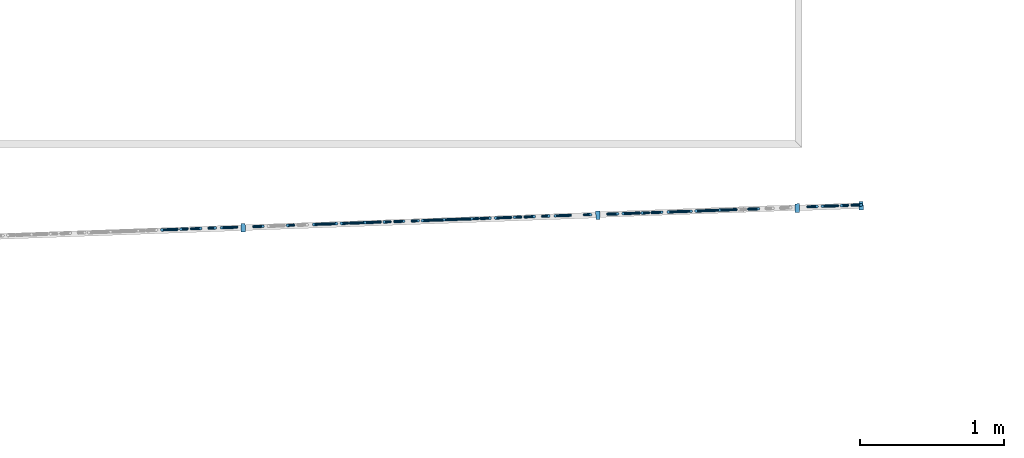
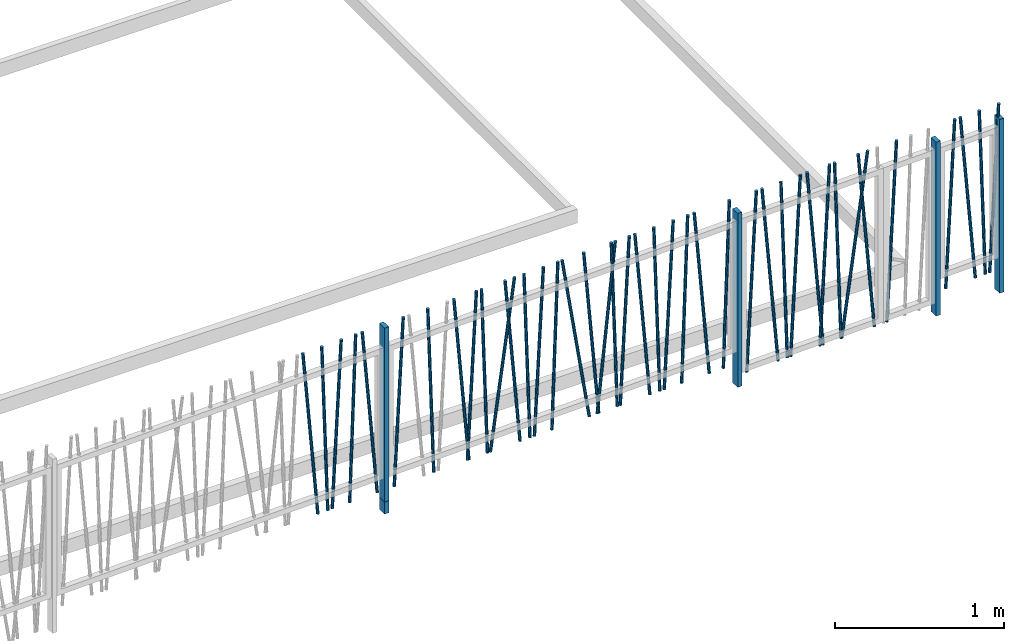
# One storey, part 12 of 171: 45 columns.
"""IFC2X3 building model written with IfcOpenShell, lengths in millimetres."""

from ifc_helpers import new_model, entity, si_unit, converted_unit, derived_unit, money_unit, direction, frame, origin_with_axes, origin_2d_with_axis, place, context, subcontext, project, spatial, rectangle, circle, extrude, clip, halfspace, material, type_object, element, save


model = new_model("IFC2X3")

# Units and contexts
model_context = context("Model", 3, precision=0.01, world=origin_with_axes(), true_north=direction((0.0, 1.0)))
body_context = subcontext(model_context, "Body", "Model", "MODEL_VIEW")
ifc_project = project(units=[si_unit("LENGTHUNIT", "METRE", prefix="MILLI"), si_unit("AREAUNIT", "SQUARE_METRE"), si_unit("VOLUMEUNIT", "CUBIC_METRE"), converted_unit("PLANEANGLEUNIT", "DEGREE", entity("IfcPlaneAngleMeasure", 0.0174532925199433), si_unit("PLANEANGLEUNIT", "RADIAN"), dimensions=[0, 0, 0, 0, 0, 0, 0]), money_unit("USD"), converted_unit("TIMEUNIT", "Year", entity("IfcTimeMeasure", 31557600.0), si_unit("TIMEUNIT", "SECOND"), dimensions=[0, 0, 1, 0, 0, 0, 0]), si_unit("MASSUNIT", "GRAM", prefix="KILO"), si_unit("THERMODYNAMICTEMPERATUREUNIT", "DEGREE_CELSIUS"), si_unit("LUMINOUSINTENSITYUNIT", "LUMEN"), si_unit("ENERGYUNIT", "JOULE", prefix="MEGA"), derived_unit("THERMALCONDUCTANCEUNIT", [(si_unit("POWERUNIT", "WATT"), 1), (si_unit("LENGTHUNIT", "METRE"), -1), (si_unit("THERMODYNAMICTEMPERATUREUNIT", "KELVIN"), -1)]), derived_unit("SPECIFICHEATCAPACITYUNIT", [(si_unit("ENERGYUNIT", "JOULE"), 1), (si_unit("MASSUNIT", "GRAM", prefix="KILO"), -1), (si_unit("THERMODYNAMICTEMPERATUREUNIT", "KELVIN"), -1)]), derived_unit("MASSDENSITYUNIT", [(si_unit("MASSUNIT", "GRAM", prefix="KILO"), 1), (si_unit("VOLUMEUNIT", "CUBIC_METRE"), -1)])], contexts=[model_context])

# Site, building, storey
site_placement = place(None, origin_with_axes())
site = spatial("IfcSite", under=ifc_project, at=site_placement, Name="Site", CompositionType="ELEMENT")
building_placement = place(site_placement, origin_with_axes())
building = spatial("IfcBuilding", under=site, at=building_placement, Name="Bâtiment", CompositionType="ELEMENT")
storey_placement = place(building_placement, frame((0.0, 0.0, 3000.0), z_axis=(0.0, 0.0, 1.0), x_axis=(1.0, 0.0, 0.0)))
storey = spatial("IfcBuildingStorey", under=building, at=storey_placement, Name="rdc", CompositionType="ELEMENT", Elevation=3000.0)

# Columns
ifc_material = material(Name="Empty Fill 2959611567")
column_type_1 = type_object("IfcColumnType", Name="Empty Fill 2959611567 D20", PredefinedType="NOTDEFINED")
column_1_placement = place(storey_placement, frame((2251008.383621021, -666933.1708289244, -1950.0), z_axis=(0.0, 0.0, 1.0), x_axis=(-0.03567989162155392, 0.9993632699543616, 0.0)))
element("IfcColumn", 1, at=column_1_placement, inside=storey, type_object=column_type_1, material=ifc_material, Name="Pilier-019", context=body_context, shape_type="Clipping", body=[
    clip(clip(extrude(circle(Radius=10.0, at=origin_2d_with_axis()), frame((0.0, -0.152502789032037, -1.743114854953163), z_axis=(0.0, 0.08715574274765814, 0.9961946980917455), x_axis=(1.0, 0.0, 0.0)), (0.0, 0.0, 1.0), 1208.083351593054), halfspace(frame((0.0, 0.0, 0.0), z_axis=(0.0, 0.0, 1.0), x_axis=(0.0, -1.0, 0.0)), True)), halfspace(frame((0.0, 0.0, 1200.0), z_axis=(0.0, 0.0, -1.0), x_axis=(0.0, 1.0, 0.0)), True)),
])
column_2_placement = place(storey_placement, frame((2251850.463526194, -666903.1063662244, -1950.0), z_axis=(0.0, 0.0, 1.0), x_axis=(-0.03567989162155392, 0.9993632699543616, 0.0)))
element("IfcColumn", 2, at=column_2_placement, inside=storey, type_object=column_type_1, material=ifc_material, Name="Pilier-019", context=body_context, shape_type="Clipping", body=[
    clip(clip(extrude(circle(Radius=10.0, at=origin_2d_with_axis()), frame((0.0, -0.4955357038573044, -3.128689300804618), z_axis=(0.0, 0.1564344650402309, 0.9876883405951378), x_axis=(1.0, 0.0, 0.0)), (0.0, 0.0, 1.0), 1221.293528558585), halfspace(frame((0.0, 0.0, 0.0), z_axis=(0.0, 0.0, 1.0), x_axis=(0.0, -1.0, 0.0)), True)), halfspace(frame((0.0, 0.0, 1200.0), z_axis=(0.0, 0.0, -1.0), x_axis=(0.0, 1.0, 0.0)), True)),
])
column_3_placement = place(storey_placement, frame((2251467.036645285, -666916.795712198, -1950.0), z_axis=(0.0, 0.0, 1.0), x_axis=(0.03567989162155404, -0.9993632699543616, 0.0)))
element("IfcColumn", 3, at=column_3_placement, inside=storey, type_object=column_type_1, material=ifc_material, Name="Pilier-019", context=body_context, shape_type="Clipping", body=[
    clip(clip(extrude(circle(Radius=10.0, at=origin_2d_with_axis()), frame((0.0, -0.05485622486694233, -1.046719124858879), z_axis=(0.0, -0.05233595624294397, -0.9986295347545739), x_axis=(-1.0, 0.0, 0.0)), (0.0, 0.0, -1.0), 1203.743126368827), halfspace(frame((0.0, 0.0, 0.0), z_axis=(0.0, 0.0, 1.0), x_axis=(0.0, -1.0, 0.0)), True)), halfspace(frame((0.0, 0.0, 1200.0), z_axis=(0.0, 0.0, -1.0), x_axis=(0.0, 1.0, 0.0)), True)),
])
column_4_placement = place(storey_placement, frame((2251916.669848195, -666900.7426267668, -1950.0), z_axis=(0.0, 0.0, 1.0), x_axis=(-0.03567989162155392, 0.9993632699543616, 0.0)))
element("IfcColumn", 4, at=column_4_placement, inside=storey, type_object=column_type_1, material=ifc_material, Name="Pilier-019", context=body_context, shape_type="Clipping", body=[
    clip(clip(extrude(circle(Radius=10.0, at=origin_2d_with_axis()), frame((0.0, -0.152502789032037, -1.743114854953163), z_axis=(0.0, 0.08715574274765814, 0.9961946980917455), x_axis=(1.0, 0.0, 0.0)), (0.0, 0.0, 1.0), 1208.083351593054), halfspace(frame((0.0, 0.0, 0.0), z_axis=(0.0, 0.0, 1.0), x_axis=(0.0, -1.0, 0.0)), True)), halfspace(frame((0.0, 0.0, 1200.0), z_axis=(0.0, 0.0, -1.0), x_axis=(0.0, 1.0, 0.0)), True)),
])
column_5_placement = place(storey_placement, frame((2254344.80680026, -666814.0517648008, -1950.0), z_axis=(0.0, 0.0, 1.0), x_axis=(0.03567989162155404, -0.9993632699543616, 0.0)))
element("IfcColumn", 5, at=column_5_placement, inside=storey, type_object=column_type_1, material=ifc_material, Name="Pilier-019", context=body_context, shape_type="Clipping", body=[
    clip(clip(extrude(circle(Radius=10.0, at=origin_2d_with_axis()), frame((0.0, -0.05485622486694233, -1.046719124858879), z_axis=(0.0, -0.05233595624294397, -0.9986295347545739), x_axis=(-1.0, 0.0, 0.0)), (0.0, 0.0, -1.0), 1203.743126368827), halfspace(frame((0.0, 0.0, 0.0), z_axis=(0.0, 0.0, 1.0), x_axis=(0.0, -1.0, 0.0)), True)), halfspace(frame((0.0, 0.0, 1200.0), z_axis=(0.0, 0.0, -1.0), x_axis=(0.0, 1.0, 0.0)), True)),
])
column_6_placement = place(storey_placement, frame((2254621.235430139, -666804.1825372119, -1950.0), z_axis=(0.0, 0.0, 1.0), x_axis=(-0.03567989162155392, 0.9993632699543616, 0.0)))
element("IfcColumn", 6, at=column_6_placement, inside=storey, type_object=column_type_1, material=ifc_material, Name="Pilier-019", context=body_context, shape_type="Clipping", body=[
    clip(clip(extrude(circle(Radius=10.0, at=origin_2d_with_axis()), frame((0.0, -0.02437434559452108, -0.6979899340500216), z_axis=(0.0, 0.03489949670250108, 0.9993908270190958), x_axis=(1.0, 0.0, 0.0)), (0.0, 0.0, 1.0), 1202.128283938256), halfspace(frame((0.0, 0.0, 0.0), z_axis=(0.0, 0.0, 1.0), x_axis=(0.0, -1.0, 0.0)), True)), halfspace(frame((0.0, 0.0, 1200.0), z_axis=(0.0, 0.0, -1.0), x_axis=(0.0, 1.0, 0.0)), True)),
])
column_7_placement = place(storey_placement, frame((2252375.322872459, -666884.3675100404, -1950.0), z_axis=(0.0, 0.0, 1.0), x_axis=(0.03567989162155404, -0.9993632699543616, 0.0)))
element("IfcColumn", 7, at=column_7_placement, inside=storey, type_object=column_type_1, material=ifc_material, Name="Pilier-019", context=body_context, shape_type="Clipping", body=[
    clip(clip(extrude(circle(Radius=10.0, at=origin_2d_with_axis()), frame((0.0, -0.05485622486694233, -1.046719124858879), z_axis=(0.0, -0.05233595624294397, -0.9986295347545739), x_axis=(-1.0, 0.0, 0.0)), (0.0, 0.0, -1.0), 1203.743126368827), halfspace(frame((0.0, 0.0, 0.0), z_axis=(0.0, 0.0, 1.0), x_axis=(0.0, -1.0, 0.0)), True)), halfspace(frame((0.0, 0.0, 1200.0), z_axis=(0.0, 0.0, -1.0), x_axis=(0.0, 1.0, 0.0)), True)),
])
column_8_placement = place(storey_placement, frame((2252344.049643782, -666885.4840463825, -1950.0), z_axis=(0.0, 0.0, 1.0), x_axis=(-0.03567989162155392, 0.9993632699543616, 0.0)))
element("IfcColumn", 8, at=column_8_placement, inside=storey, type_object=column_type_1, material=ifc_material, Name="Pilier-019", context=body_context, shape_type="Clipping", body=[
    clip(clip(extrude(circle(Radius=10.0, at=origin_2d_with_axis()), frame((0.0, -0.02437434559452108, -0.6979899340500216), z_axis=(0.0, 0.03489949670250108, 0.9993908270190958), x_axis=(1.0, 0.0, 0.0)), (0.0, 0.0, 1.0), 1202.128283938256), halfspace(frame((0.0, 0.0, 0.0), z_axis=(0.0, 0.0, 1.0), x_axis=(0.0, -1.0, 0.0)), True)), halfspace(frame((0.0, 0.0, 1200.0), z_axis=(0.0, 0.0, -1.0), x_axis=(0.0, 1.0, 0.0)), True)),
])
for number, where, z_axis, x_axis, name in (
    (9, (2252690.047232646, -666873.1310243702, -1950.0), (0.0, 0.0, 1.0), (-0.03567989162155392, 0.9993632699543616, 0.0), "Pilier-019"),
    (10, (2251366.343299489, -666920.3907289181, -1950.0), (0.0, 0.0, 1.0), (-0.03567989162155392, 0.9993632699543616, 0.0), "Pilier-019"),
):
    element("IfcColumn", number, at=place(storey_placement, frame(where, z_axis=z_axis, x_axis=x_axis)), inside=storey, type_object=column_type_1, material=ifc_material, Name=name, context=body_context, shape_type="Clipping", body=[
        clip(clip(extrude(circle(Radius=10.0, at=origin_2d_with_axis()), frame((0.0, -0.152502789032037, -1.743114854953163), z_axis=(0.0, 0.08715574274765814, 0.9961946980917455), x_axis=(1.0, 0.0, 0.0)), (0.0, 0.0, 1.0), 1208.083351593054), halfspace(frame((0.0, 0.0, 0.0), z_axis=(0.0, 0.0, 1.0), x_axis=(0.0, -1.0, 0.0)), True)), halfspace(frame((0.0, 0.0, 1200.0), z_axis=(0.0, 0.0, -1.0), x_axis=(0.0, 1.0, 0.0)), True)),
    ])
column_9_placement = place(storey_placement, frame((2251906.771513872, -666901.096023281, -1950.0), z_axis=(0.0, 0.0, 1.0), x_axis=(0.03567989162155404, -0.9993632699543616, 0.0)))
element("IfcColumn", 11, at=column_9_placement, inside=storey, type_object=column_type_1, material=ifc_material, Name="Pilier-019", context=body_context, shape_type="Clipping", body=[
    clip(clip(extrude(circle(Radius=10.0, at=origin_2d_with_axis()), frame((0.0, -0.2197276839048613, -2.090569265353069), z_axis=(0.0, -0.1045284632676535, -0.9945218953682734), x_axis=(-1.0, 0.0, 0.0)), (0.0, 0.0, -1.0), 1210.814104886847), halfspace(frame((0.0, 0.0, 0.0), z_axis=(0.0, 0.0, 1.0), x_axis=(0.0, -1.0, 0.0)), True)), halfspace(frame((0.0, 0.0, 1200.0), z_axis=(0.0, 0.0, -1.0), x_axis=(0.0, 1.0, 0.0)), True)),
])
column_10_placement = place(storey_placement, frame((2251159.334786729, -666927.781476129, -1950.0), z_axis=(0.0, 0.0, 1.0), x_axis=(0.03567989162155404, -0.9993632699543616, 0.0)))
element("IfcColumn", 12, at=column_10_placement, inside=storey, type_object=column_type_1, material=ifc_material, Name="Pilier-019", context=body_context, shape_type="Clipping", body=[
    clip(clip(extrude(circle(Radius=10.0, at=origin_2d_with_axis()), frame((0.0, -0.3911900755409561, -2.78346201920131), z_axis=(0.0, -0.1391731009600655, -0.9902680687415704), x_axis=(-1.0, 0.0, 0.0)), (0.0, 0.0, -1.0), 1217.414720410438), halfspace(frame((0.0, 0.0, 0.0), z_axis=(0.0, 0.0, 1.0), x_axis=(0.0, -1.0, 0.0)), True)), halfspace(frame((0.0, 0.0, 1200.0), z_axis=(0.0, 0.0, -1.0), x_axis=(0.0, 1.0, 0.0)), True)),
])
column_11_placement = place(storey_placement, frame((2251138.21386671, -666928.5355484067, -1950.0), z_axis=(0.0, 0.0, 1.0), x_axis=(-0.03567989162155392, 0.9993632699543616, 0.0)))
element("IfcColumn", 13, at=column_11_placement, inside=storey, type_object=column_type_1, material=ifc_material, Name="Pilier-019", context=body_context, shape_type="Clipping", body=[
    clip(clip(extrude(circle(Radius=10.0, at=origin_2d_with_axis()), frame((0.0, -0.02437434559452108, -0.6979899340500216), z_axis=(0.0, 0.03489949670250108, 0.9993908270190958), x_axis=(1.0, 0.0, 0.0)), (0.0, 0.0, 1.0), 1202.128283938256), halfspace(frame((0.0, 0.0, 0.0), z_axis=(0.0, 0.0, 1.0), x_axis=(0.0, -1.0, 0.0)), True)), halfspace(frame((0.0, 0.0, 1200.0), z_axis=(0.0, 0.0, -1.0), x_axis=(0.0, 1.0, 0.0)), True)),
])
column_12_placement = place(storey_placement, frame((2252788.956779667, -666869.5996939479, -1950.0), z_axis=(0.0, 0.0, 1.0), x_axis=(0.03567989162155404, -0.9993632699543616, 0.0)))
element("IfcColumn", 14, at=column_12_placement, inside=storey, type_object=column_type_1, material=ifc_material, Name="Pilier-019", context=body_context, shape_type="Clipping", body=[
    clip(clip(extrude(circle(Radius=10.0, at=origin_2d_with_axis()), frame((0.0, -0.02437434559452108, -0.6979899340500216), z_axis=(0.0, -0.03489949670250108, -0.9993908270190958), x_axis=(-1.0, 0.0, 0.0)), (0.0, 0.0, -1.0), 1202.128283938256), halfspace(frame((0.0, 0.0, 0.0), z_axis=(0.0, 0.0, 1.0), x_axis=(0.0, -1.0, 0.0)), True)), halfspace(frame((0.0, 0.0, 1200.0), z_axis=(0.0, 0.0, -1.0), x_axis=(0.0, 1.0, 0.0)), True)),
])
column_13_placement = place(storey_placement, frame((2254652.508658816, -666803.0660008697, -1950.0), z_axis=(0.0, 0.0, 1.0), x_axis=(0.03567989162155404, -0.9993632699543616, 0.0)))
element("IfcColumn", 15, at=column_13_placement, inside=storey, type_object=column_type_1, material=ifc_material, Name="Pilier-019", context=body_context, shape_type="Clipping", body=[
    clip(clip(extrude(circle(Radius=10.0, at=origin_2d_with_axis()), frame((0.0, -0.05485622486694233, -1.046719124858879), z_axis=(0.0, -0.05233595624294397, -0.9986295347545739), x_axis=(-1.0, 0.0, 0.0)), (0.0, 0.0, -1.0), 1203.743126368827), halfspace(frame((0.0, 0.0, 0.0), z_axis=(0.0, 0.0, 1.0), x_axis=(0.0, -1.0, 0.0)), True)), halfspace(frame((0.0, 0.0, 1200.0), z_axis=(0.0, 0.0, -1.0), x_axis=(0.0, 1.0, 0.0)), True)),
])
column_14_placement = place(storey_placement, frame((2252046.500093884, -666896.107346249, -1950.0), z_axis=(0.0, 0.0, 1.0), x_axis=(-0.03567989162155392, 0.9993632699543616, 0.0)))
element("IfcColumn", 16, at=column_14_placement, inside=storey, type_object=column_type_1, material=ifc_material, Name="Pilier-019", context=body_context, shape_type="Clipping", body=[
    clip(clip(extrude(circle(Radius=10.0, at=origin_2d_with_axis()), frame((0.0, -0.02437434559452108, -0.6979899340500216), z_axis=(0.0, 0.03489949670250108, 0.9993908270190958), x_axis=(1.0, 0.0, 0.0)), (0.0, 0.0, 1.0), 1202.128283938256), halfspace(frame((0.0, 0.0, 0.0), z_axis=(0.0, 0.0, 1.0), x_axis=(0.0, -1.0, 0.0)), True)), halfspace(frame((0.0, 0.0, 1200.0), z_axis=(0.0, 0.0, -1.0), x_axis=(0.0, 1.0, 0.0)), True)),
])
for number, where, z_axis, x_axis, name in (
    (17, (2252067.621013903, -666895.3532739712, -1950.0), (0.0, 0.0, 1.0), (0.03567989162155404, -0.9993632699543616, 0.0), "Pilier-019"),
    (18, (2250486.327789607, -666951.8095922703, -1950.0), (0.0, 0.0, 1.0), (0.03567989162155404, -0.9993632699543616, 0.0), "Pilier-019"),
):
    element("IfcColumn", number, at=place(storey_placement, frame(where, z_axis=z_axis, x_axis=x_axis)), inside=storey, type_object=column_type_1, material=ifc_material, Name=name, context=body_context, shape_type="Clipping", body=[
        clip(clip(extrude(circle(Radius=10.0, at=origin_2d_with_axis()), frame((0.0, -0.05485622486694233, -1.046719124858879), z_axis=(0.0, -0.05233595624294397, -0.9986295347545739), x_axis=(-1.0, 0.0, 0.0)), (0.0, 0.0, -1.0), 1203.743126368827), halfspace(frame((0.0, 0.0, 0.0), z_axis=(0.0, 0.0, 1.0), x_axis=(0.0, -1.0, 0.0)), True)), halfspace(frame((0.0, 0.0, 1200.0), z_axis=(0.0, 0.0, -1.0), x_axis=(0.0, 1.0, 0.0)), True)),
    ])
column_15_placement = place(storey_placement, frame((2250762.756419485, -666941.9403646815, -1950.0), z_axis=(0.0, 0.0, 1.0), x_axis=(-0.03567989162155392, 0.9993632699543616, 0.0)))
element("IfcColumn", 19, at=column_15_placement, inside=storey, type_object=column_type_1, material=ifc_material, Name="Pilier-019", context=body_context, shape_type="Clipping", body=[
    clip(clip(extrude(circle(Radius=10.0, at=origin_2d_with_axis()), frame((0.0, -0.02437434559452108, -0.6979899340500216), z_axis=(0.0, 0.03489949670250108, 0.9993908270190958), x_axis=(1.0, 0.0, 0.0)), (0.0, 0.0, 1.0), 1202.128283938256), halfspace(frame((0.0, 0.0, 0.0), z_axis=(0.0, 0.0, 1.0), x_axis=(0.0, -1.0, 0.0)), True)), halfspace(frame((0.0, 0.0, 1200.0), z_axis=(0.0, 0.0, -1.0), x_axis=(0.0, 1.0, 0.0)), True)),
])
for number, where, z_axis, x_axis, name in (
    (20, (2254551.81531302, -666806.66101759, -1950.0), (0.0, 0.0, 1.0), (-0.03567989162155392, 0.9993632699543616, 0.0), "Pilier-019"),
    (21, (2252274.629526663, -666887.9625267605, -1950.0), (0.0, 0.0, 1.0), (-0.03567989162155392, 0.9993632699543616, 0.0), "Pilier-019"),
):
    element("IfcColumn", number, at=place(storey_placement, frame(where, z_axis=z_axis, x_axis=x_axis)), inside=storey, type_object=column_type_1, material=ifc_material, Name=name, context=body_context, shape_type="Clipping", body=[
        clip(clip(extrude(circle(Radius=10.0, at=origin_2d_with_axis()), frame((0.0, -0.152502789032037, -1.743114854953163), z_axis=(0.0, 0.08715574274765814, 0.9961946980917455), x_axis=(1.0, 0.0, 0.0)), (0.0, 0.0, 1.0), 1208.083351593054), halfspace(frame((0.0, 0.0, 0.0), z_axis=(0.0, 0.0, 1.0), x_axis=(0.0, -1.0, 0.0)), True)), halfspace(frame((0.0, 0.0, 1200.0), z_axis=(0.0, 0.0, -1.0), x_axis=(0.0, 1.0, 0.0)), True)),
    ])
column_16_placement = place(storey_placement, frame((2252497.577947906, -666880.0026829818, -1950.0), z_axis=(0.0, 0.0, 1.0), x_axis=(0.03567989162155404, -0.9993632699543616, 0.0)))
element("IfcColumn", 22, at=column_16_placement, inside=storey, type_object=column_type_1, material=ifc_material, Name="Pilier-019", context=body_context, shape_type="Clipping", body=[
    clip(clip(extrude(circle(Radius=10.0, at=origin_2d_with_axis()), frame((0.0, -0.02437434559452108, -0.6979899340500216), z_axis=(0.0, -0.03489949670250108, -0.9993908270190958), x_axis=(-1.0, 0.0, 0.0)), (0.0, 0.0, -1.0), 1202.128283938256), halfspace(frame((0.0, 0.0, 0.0), z_axis=(0.0, 0.0, 1.0), x_axis=(0.0, -1.0, 0.0)), True)), halfspace(frame((0.0, 0.0, 1200.0), z_axis=(0.0, 0.0, -1.0), x_axis=(0.0, 1.0, 0.0)), True)),
])
column_17_placement = place(storey_placement, frame((2250367.059312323, -666956.067789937, -1950.0), z_axis=(0.0, 0.0, 1.0), x_axis=(-0.03567989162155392, 0.9993632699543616, 0.0)))
element("IfcColumn", 23, at=column_17_placement, inside=storey, type_object=column_type_1, material=ifc_material, Name="Pilier-019", context=body_context, shape_type="Clipping", body=[
    clip(clip(extrude(circle(Radius=10.0, at=origin_2d_with_axis()), frame((0.0, -0.152502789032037, -1.743114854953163), z_axis=(0.0, 0.08715574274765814, 0.9961946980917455), x_axis=(1.0, 0.0, 0.0)), (0.0, 0.0, 1.0), 1208.083351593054), halfspace(frame((0.0, 0.0, 0.0), z_axis=(0.0, 0.0, 1.0), x_axis=(0.0, -1.0, 0.0)), True)), halfspace(frame((0.0, 0.0, 1200.0), z_axis=(0.0, 0.0, -1.0), x_axis=(0.0, 1.0, 0.0)), True)),
])
column_18_placement = place(storey_placement, frame((2251435.763416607, -666917.91224854, -1950.0), z_axis=(0.0, 0.0, 1.0), x_axis=(-0.03567989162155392, 0.9993632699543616, 0.0)))
element("IfcColumn", 24, at=column_18_placement, inside=storey, type_object=column_type_1, material=ifc_material, Name="Pilier-019", context=body_context, shape_type="Clipping", body=[
    clip(clip(extrude(circle(Radius=10.0, at=origin_2d_with_axis()), frame((0.0, -0.02437434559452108, -0.6979899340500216), z_axis=(0.0, 0.03489949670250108, 0.9993908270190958), x_axis=(1.0, 0.0, 0.0)), (0.0, 0.0, 1.0), 1202.128283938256), halfspace(frame((0.0, 0.0, 0.0), z_axis=(0.0, 0.0, 1.0), x_axis=(0.0, -1.0, 0.0)), True)), halfspace(frame((0.0, 0.0, 1200.0), z_axis=(0.0, 0.0, -1.0), x_axis=(0.0, 1.0, 0.0)), True)),
])
column_19_placement = place(storey_placement, frame((2251589.291720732, -666912.4308851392, -1950.0), z_axis=(0.0, 0.0, 1.0), x_axis=(0.03567989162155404, -0.9993632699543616, 0.0)))
element("IfcColumn", 25, at=column_19_placement, inside=storey, type_object=column_type_1, material=ifc_material, Name="Pilier-019", context=body_context, shape_type="Clipping", body=[
    clip(clip(extrude(circle(Radius=10.0, at=origin_2d_with_axis()), frame((0.0, -0.02437434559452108, -0.6979899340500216), z_axis=(0.0, -0.03489949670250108, -0.9993908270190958), x_axis=(-1.0, 0.0, 0.0)), (0.0, 0.0, -1.0), 1202.128283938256), halfspace(frame((0.0, 0.0, 0.0), z_axis=(0.0, 0.0, 1.0), x_axis=(0.0, -1.0, 0.0)), True)), halfspace(frame((0.0, 0.0, 1200.0), z_axis=(0.0, 0.0, -1.0), x_axis=(0.0, 1.0, 0.0)), True)),
])
column_20_placement = place(storey_placement, frame((2250998.485286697, -666933.5242254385, -1950.0), z_axis=(0.0, 0.0, 1.0), x_axis=(0.03567989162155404, -0.9993632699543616, 0.0)))
element("IfcColumn", 26, at=column_20_placement, inside=storey, type_object=column_type_1, material=ifc_material, Name="Pilier-019", context=body_context, shape_type="Clipping", body=[
    clip(clip(extrude(circle(Radius=10.0, at=origin_2d_with_axis()), frame((0.0, -0.05485622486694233, -1.046719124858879), z_axis=(0.0, -0.05233595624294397, -0.9986295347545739), x_axis=(-1.0, 0.0, 0.0)), (0.0, 0.0, -1.0), 1203.743126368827), halfspace(frame((0.0, 0.0, 0.0), z_axis=(0.0, 0.0, 1.0), x_axis=(0.0, -1.0, 0.0)), True)), halfspace(frame((0.0, 0.0, 1200.0), z_axis=(0.0, 0.0, -1.0), x_axis=(0.0, 1.0, 0.0)), True)),
])
column_21_placement = place(storey_placement, frame((2249951.641606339, -666970.8992923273, -1950.0), z_axis=(0.0, 0.0, 1.0), x_axis=(-0.03567989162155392, 0.9993632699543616, 0.0)))
element("IfcColumn", 27, at=column_21_placement, inside=storey, type_object=column_type_1, material=ifc_material, Name="Pilier-019", context=body_context, shape_type="Clipping", body=[
    clip(clip(extrude(circle(Radius=10.0, at=origin_2d_with_axis()), frame((0.0, -0.152502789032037, -1.743114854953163), z_axis=(0.0, 0.08715574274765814, 0.9961946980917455), x_axis=(1.0, 0.0, 0.0)), (0.0, 0.0, 1.0), 1208.083351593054), halfspace(frame((0.0, 0.0, 0.0), z_axis=(0.0, 0.0, 1.0), x_axis=(0.0, -1.0, 0.0)), True)), halfspace(frame((0.0, 0.0, 1200.0), z_axis=(0.0, 0.0, -1.0), x_axis=(0.0, 1.0, 0.0)), True)),
])
column_22_placement = place(storey_placement, frame((2250174.590027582, -666962.9394485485, -1950.0), z_axis=(0.0, 0.0, 1.0), x_axis=(0.03567989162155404, -0.9993632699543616, 0.0)))
element("IfcColumn", 28, at=column_22_placement, inside=storey, type_object=column_type_1, material=ifc_material, Name="Pilier-019", context=body_context, shape_type="Clipping", body=[
    clip(clip(extrude(circle(Radius=10.0, at=origin_2d_with_axis()), frame((0.0, -0.02437434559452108, -0.6979899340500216), z_axis=(0.0, -0.03489949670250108, -0.9993908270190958), x_axis=(-1.0, 0.0, 0.0)), (0.0, 0.0, -1.0), 1202.128283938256), halfspace(frame((0.0, 0.0, 0.0), z_axis=(0.0, 0.0, 1.0), x_axis=(0.0, -1.0, 0.0)), True)), halfspace(frame((0.0, 0.0, 1200.0), z_axis=(0.0, 0.0, -1.0), x_axis=(0.0, 1.0, 0.0)), True)),
])
column_23_placement = place(storey_placement, frame((2250021.061723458, -666968.4208119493, -1950.0), z_axis=(0.0, 0.0, 1.0), x_axis=(-0.03567989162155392, 0.9993632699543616, 0.0)))
element("IfcColumn", 29, at=column_23_placement, inside=storey, type_object=column_type_1, material=ifc_material, Name="Pilier-019", context=body_context, shape_type="Clipping", body=[
    clip(clip(extrude(circle(Radius=10.0, at=origin_2d_with_axis()), frame((0.0, -0.02437434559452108, -0.6979899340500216), z_axis=(0.0, 0.03489949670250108, 0.9993908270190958), x_axis=(1.0, 0.0, 0.0)), (0.0, 0.0, 1.0), 1202.128283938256), halfspace(frame((0.0, 0.0, 0.0), z_axis=(0.0, 0.0, 1.0), x_axis=(0.0, -1.0, 0.0)), True)), halfspace(frame((0.0, 0.0, 1200.0), z_axis=(0.0, 0.0, -1.0), x_axis=(0.0, 1.0, 0.0)), True)),
])
column_24_placement = place(storey_placement, frame((2250052.334952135, -666967.3042756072, -1950.0), z_axis=(0.0, 0.0, 1.0), x_axis=(0.03567989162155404, -0.9993632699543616, 0.0)))
element("IfcColumn", 30, at=column_24_placement, inside=storey, type_object=column_type_1, material=ifc_material, Name="Pilier-019", context=body_context, shape_type="Clipping", body=[
    clip(clip(extrude(circle(Radius=10.0, at=origin_2d_with_axis()), frame((0.0, -0.05485622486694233, -1.046719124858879), z_axis=(0.0, -0.05233595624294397, -0.9986295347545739), x_axis=(-1.0, 0.0, 0.0)), (0.0, 0.0, -1.0), 1203.743126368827), halfspace(frame((0.0, 0.0, 0.0), z_axis=(0.0, 0.0, 1.0), x_axis=(0.0, -1.0, 0.0)), True)), halfspace(frame((0.0, 0.0, 1200.0), z_axis=(0.0, 0.0, -1.0), x_axis=(0.0, 1.0, 0.0)), True)),
])
column_25_placement = place(storey_placement, frame((2253485.884583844, -666846.1818100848, -2038.204478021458), z_axis=(0.0, 0.0, 1.0), x_axis=(-0.03567989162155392, 0.9993632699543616, 0.0)))
element("IfcColumn", 31, at=column_25_placement, inside=storey, type_object=column_type_1, material=ifc_material, Name="Pilier-019", context=body_context, shape_type="Clipping", body=[
    clip(clip(extrude(circle(Radius=10.0, at=origin_2d_with_axis()), frame((0.0, -0.152502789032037, -1.743114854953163), z_axis=(0.0, 0.08715574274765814, 0.9961946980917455), x_axis=(1.0, 0.0, 0.0)), (0.0, 0.0, 1.0), 1296.62475639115), halfspace(frame((0.0, 0.0, 0.0), z_axis=(0.0, 0.0, 1.0), x_axis=(0.0, -1.0, 0.0)), True)), halfspace(frame((0.0, 0.0, 1288.204478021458), z_axis=(0.0, 0.0, -1.0), x_axis=(0.0, 1.0, 0.0)), True)),
])
column_26_placement = place(storey_placement, frame((2253259.198975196, -666854.2750812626, -2038.204478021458), z_axis=(0.0, 0.0, 1.0), x_axis=(0.03567989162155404, -0.9993632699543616, 0.0)))
element("IfcColumn", 32, at=column_26_placement, inside=storey, type_object=column_type_1, material=ifc_material, Name="Pilier-019", context=body_context, shape_type="Clipping", body=[
    clip(clip(extrude(circle(Radius=10.0, at=origin_2d_with_axis()), frame((0.0, -0.05485622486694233, -1.046719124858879), z_axis=(0.0, -0.05233595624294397, -0.9986295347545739), x_axis=(-1.0, 0.0, 0.0)), (0.0, 0.0, -1.0), 1292.068651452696), halfspace(frame((0.0, 0.0, 0.0), z_axis=(0.0, 0.0, 1.0), x_axis=(0.0, -1.0, 0.0)), True)), halfspace(frame((0.0, 0.0, 1288.204478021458), z_axis=(0.0, 0.0, -1.0), x_axis=(0.0, 1.0, 0.0)), True)),
])
column_27_placement = place(storey_placement, frame((2253170.837265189, -666857.4298262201, -2038.204478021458), z_axis=(0.0, 0.0, 1.0), x_axis=(-0.03567989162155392, 0.9993632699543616, 0.0)))
element("IfcColumn", 33, at=column_27_placement, inside=storey, type_object=column_type_1, material=ifc_material, Name="Pilier-019", context=body_context, shape_type="Clipping", body=[
    clip(clip(extrude(circle(Radius=10.0, at=origin_2d_with_axis()), frame((0.0, -0.152502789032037, -1.743114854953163), z_axis=(0.0, 0.08715574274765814, 0.9961946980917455), x_axis=(1.0, 0.0, 0.0)), (0.0, 0.0, 1.0), 1296.62475639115), halfspace(frame((0.0, 0.0, 0.0), z_axis=(0.0, 0.0, 1.0), x_axis=(0.0, -1.0, 0.0)), True)), halfspace(frame((0.0, 0.0, 1288.204478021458), z_axis=(0.0, 0.0, -1.0), x_axis=(0.0, 1.0, 0.0)), True)),
])
column_28_placement = place(storey_placement, frame((2253932.205972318, -666830.2469651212, -2038.204478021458), z_axis=(0.0, 0.0, 1.0), x_axis=(0.03567989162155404, -0.9993632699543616, 0.0)))
element("IfcColumn", 34, at=column_28_placement, inside=storey, type_object=column_type_1, material=ifc_material, Name="Pilier-019", context=body_context, shape_type="Clipping", body=[
    clip(clip(extrude(circle(Radius=10.0, at=origin_2d_with_axis()), frame((0.0, -0.05485622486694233, -1.046719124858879), z_axis=(0.0, -0.05233595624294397, -0.9986295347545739), x_axis=(-1.0, 0.0, 0.0)), (0.0, 0.0, -1.0), 1292.068651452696), halfspace(frame((0.0, 0.0, 0.0), z_axis=(0.0, 0.0, 1.0), x_axis=(0.0, -1.0, 0.0)), True)), halfspace(frame((0.0, 0.0, 1288.204478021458), z_axis=(0.0, 0.0, -1.0), x_axis=(0.0, 1.0, 0.0)), True)),
])
column_29_placement = place(storey_placement, frame((2253611.08105822, -666841.7119673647, -2038.204478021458), z_axis=(0.0, 0.0, 1.0), x_axis=(-0.03567989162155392, 0.9993632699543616, 0.0)))
element("IfcColumn", 35, at=column_29_placement, inside=storey, type_object=column_type_1, material=ifc_material, Name="Pilier-019", context=body_context, shape_type="Clipping", body=[
    clip(clip(extrude(circle(Radius=10.0, at=origin_2d_with_axis()), frame((0.0, -0.02437434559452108, -0.6979899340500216), z_axis=(0.0, 0.03489949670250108, 0.9993908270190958), x_axis=(1.0, 0.0, 0.0)), (0.0, 0.0, 1.0), 1290.386526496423), halfspace(frame((0.0, 0.0, 0.0), z_axis=(0.0, 0.0, 1.0), x_axis=(0.0, -1.0, 0.0)), True)), halfspace(frame((0.0, 0.0, 1288.204478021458), z_axis=(0.0, 0.0, -1.0), x_axis=(0.0, 1.0, 0.0)), True)),
])
for number, where, z_axis, x_axis, name in (
    (36, (2252951.49711664, -666865.2608451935, -2038.204478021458), (0.0, 0.0, 1.0), (0.03567989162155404, -0.9993632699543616, 0.0), "Pilier-019"),
    (37, (2253463.654613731, -666846.9754783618, -2038.204478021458), (0.0, 0.0, 1.0), (0.03567989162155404, -0.9993632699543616, 0.0), "Pilier-019"),
):
    element("IfcColumn", number, at=place(storey_placement, frame(where, z_axis=z_axis, x_axis=x_axis)), inside=storey, type_object=column_type_1, material=ifc_material, Name=name, context=body_context, shape_type="Clipping", body=[
        clip(clip(extrude(circle(Radius=10.0, at=origin_2d_with_axis()), frame((0.0, -0.05485622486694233, -1.046719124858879), z_axis=(0.0, -0.05233595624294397, -0.9986295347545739), x_axis=(-1.0, 0.0, 0.0)), (0.0, 0.0, -1.0), 1292.068651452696), halfspace(frame((0.0, 0.0, 0.0), z_axis=(0.0, 0.0, 1.0), x_axis=(0.0, -1.0, 0.0)), True)), halfspace(frame((0.0, 0.0, 1288.204478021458), z_axis=(0.0, 0.0, -1.0), x_axis=(0.0, 1.0, 0.0)), True)),
    ])
column_30_placement = place(storey_placement, frame((2253843.844262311, -666833.4017100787, -2038.204478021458), z_axis=(0.0, 0.0, 1.0), x_axis=(-0.03567989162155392, 0.9993632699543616, 0.0)))
element("IfcColumn", 38, at=column_30_placement, inside=storey, type_object=column_type_1, material=ifc_material, Name="Pilier-019", context=body_context, shape_type="Clipping", body=[
    clip(clip(extrude(circle(Radius=10.0, at=origin_2d_with_axis()), frame((0.0, -0.152502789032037, -1.743114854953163), z_axis=(0.0, 0.08715574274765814, 0.9961946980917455), x_axis=(1.0, 0.0, 0.0)), (0.0, 0.0, 1.0), 1296.62475639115), halfspace(frame((0.0, 0.0, 0.0), z_axis=(0.0, 0.0, 1.0), x_axis=(0.0, -1.0, 0.0)), True)), halfspace(frame((0.0, 0.0, 1288.204478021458), z_axis=(0.0, 0.0, -1.0), x_axis=(0.0, 1.0, 0.0)), True)),
])
column_31_placement = place(storey_placement, frame((2253616.73533338, -666841.5100949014, -2038.204478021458), z_axis=(0.0, 0.0, 1.0), x_axis=(0.03567989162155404, -0.9993632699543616, 0.0)))
element("IfcColumn", 39, at=column_31_placement, inside=storey, type_object=column_type_1, material=ifc_material, Name="Pilier-019", context=body_context, shape_type="Clipping", body=[
    clip(clip(extrude(circle(Radius=10.0, at=origin_2d_with_axis()), frame((0.0, -0.3911900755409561, -2.78346201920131), z_axis=(0.0, -0.1391731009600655, -0.9902680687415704), x_axis=(-1.0, 0.0, 0.0)), (0.0, 0.0, -1.0), 1306.486034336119), halfspace(frame((0.0, 0.0, 0.0), z_axis=(0.0, 0.0, 1.0), x_axis=(0.0, -1.0, 0.0)), True)), halfspace(frame((0.0, 0.0, 1288.204478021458), z_axis=(0.0, 0.0, -1.0), x_axis=(0.0, 1.0, 0.0)), True)),
])
column_32_placement = place(storey_placement, frame((2253235.623610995, -666855.1167836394, -2038.204478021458), z_axis=(0.0, 0.0, 1.0), x_axis=(-0.03567989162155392, 0.9993632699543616, 0.0)))
element("IfcColumn", 40, at=column_32_placement, inside=storey, type_object=column_type_1, material=ifc_material, Name="Pilier-019", context=body_context, shape_type="Clipping", body=[
    clip(clip(extrude(circle(Radius=10.0, at=origin_2d_with_axis()), frame((0.0, -0.02437434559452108, -0.6979899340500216), z_axis=(0.0, 0.03489949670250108, 0.9993908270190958), x_axis=(1.0, 0.0, 0.0)), (0.0, 0.0, 1.0), 1290.386526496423), halfspace(frame((0.0, 0.0, 0.0), z_axis=(0.0, 0.0, 1.0), x_axis=(0.0, -1.0, 0.0)), True)), halfspace(frame((0.0, 0.0, 1288.204478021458), z_axis=(0.0, 0.0, -1.0), x_axis=(0.0, 1.0, 0.0)), True)),
])
column_type_2 = type_object("IfcColumnType", Name="Empty Fill 2959611567 30 x 60", PredefinedType="NOTDEFINED")
for number, where, z_axis, x_axis, name in (
    (41, (2254715.347938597, -666806.8524763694, -2100.0), (0.0, 0.0, 1.0), (0.9993632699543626, 0.03567989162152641, 0.0), "Pilier-019"),
    (42, (2254270.577635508, -666822.7319435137, -2100.0), (0.0, 0.0, 1.0), (0.9993632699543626, 0.03567989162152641, 0.0), "Pilier-019"),
    (43, (2252882.456607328, -666872.29150742, -2100.0), (0.0, 0.0, 1.0), (0.9993632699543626, 0.03567989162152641, 0.0), "Pilier-019"),
    (44, (2250412.098624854, -666960.4897709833, -2100.0), (0.0, 0.0, 1.0), (0.9993632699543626, 0.03567989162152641, 0.0), "Pilier-019"),
    (45, (2250412.098624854, -666960.4897709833, -2011.782515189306), (0.0, 0.0, 1.0), (0.9993632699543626, 0.03567989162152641, 0.0), "Pilier-019"),
):
    element("IfcColumn", number, at=place(storey_placement, frame(where, z_axis=z_axis, x_axis=x_axis)), inside=storey, type_object=column_type_2, material=ifc_material, Name=name, context=body_context, shape_type="SweptSolid", body=[
        extrude(rectangle(XDim=30.0, YDim=60.0, at=origin_2d_with_axis()), origin_with_axes(), (0.0, 0.0, 1.0), 1260.0),
    ])

save(model, "model.ifc")
